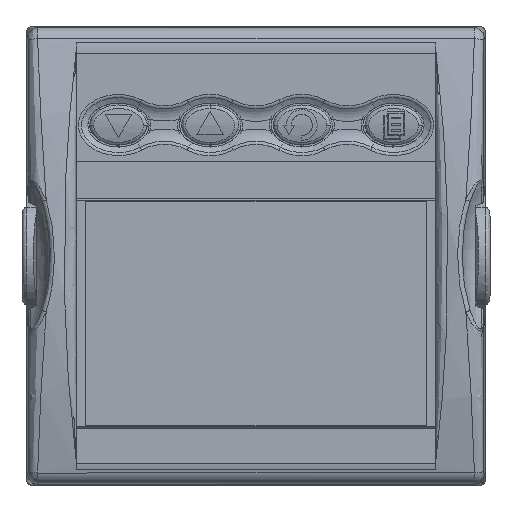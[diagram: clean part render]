
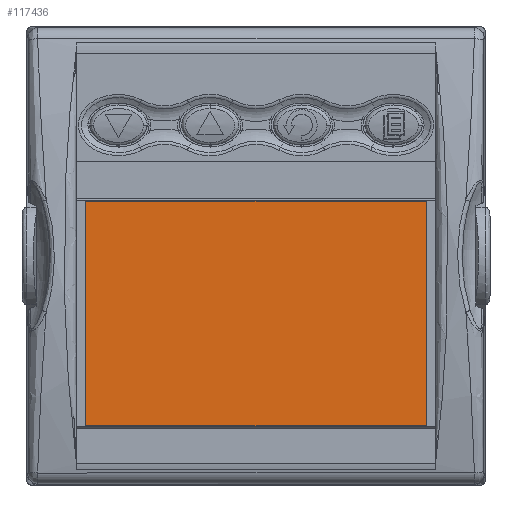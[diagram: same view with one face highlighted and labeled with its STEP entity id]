
A CAD part, top view. The second image highlights one B-rep face of the part: STEP entity #117436.
In plain terms, the highlighted planar face has unit normal (0, 0, 1).
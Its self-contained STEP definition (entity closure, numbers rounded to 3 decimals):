
#30992=DIRECTION('',(0.,1.,0.));
#30993=VECTOR('',#30992,23.488);
#30994=CARTESIAN_POINT('',(42.04,8.988,
-2.924));
#30995=LINE('',#30994,#30993);
#31008=DIRECTION('',(0.,-1.,0.));
#31009=VECTOR('',#31008,23.488);
#31010=CARTESIAN_POINT('',(6.44,32.476,
-2.924));
#31011=LINE('',#31010,#31009);
#31016=DIRECTION('',(1.,0.,0.));
#31017=VECTOR('',#31016,35.6);
#31018=CARTESIAN_POINT('',(6.44,8.988,
-2.924));
#31019=LINE('',#31018,#31017);
#31020=DIRECTION('',(-1.,0.,0.));
#31021=VECTOR('',#31020,35.6);
#31022=CARTESIAN_POINT('',(42.04,32.476,
-2.924));
#31023=LINE('',#31022,#31021);
#55248=CARTESIAN_POINT('',(6.44,32.476,
-2.924));
#55249=CARTESIAN_POINT('',(6.44,8.988,
-2.924));
#55250=VERTEX_POINT('',#55248);
#55251=VERTEX_POINT('',#55249);
#55252=CARTESIAN_POINT('',(42.04,32.476,
-2.924));
#55253=VERTEX_POINT('',#55252);
#55254=CARTESIAN_POINT('',(42.04,8.988,
-2.924));
#55255=VERTEX_POINT('',#55254);
#117422=CARTESIAN_POINT('',(24.24,20.732,
-2.924));
#117423=DIRECTION('',(0.,0.,1.));
#117424=DIRECTION('',(1.,0.,0.));
#117425=AXIS2_PLACEMENT_3D('',#117422,#117423,#117424);
#117426=PLANE('',#117425);
#117428=ORIENTED_EDGE('',*,*,#117427,.F.);
#117430=ORIENTED_EDGE('',*,*,#117429,.F.);
#117431=ORIENTED_EDGE('',*,*,#117411,.F.);
#117433=ORIENTED_EDGE('',*,*,#117432,.F.);
#117434=EDGE_LOOP('',(#117428,#117430,#117431,#117433));
#117435=FACE_OUTER_BOUND('',#117434,.F.);
#117411=EDGE_CURVE('',#55255,#55253,#30995,.T.);
#117427=EDGE_CURVE('',#55250,#55251,#31011,.T.);
#117429=EDGE_CURVE('',#55253,#55250,#31023,.T.);
#117432=EDGE_CURVE('',#55251,#55255,#31019,.T.);
#117436=ADVANCED_FACE('',(#117435),#117426,.T.);
